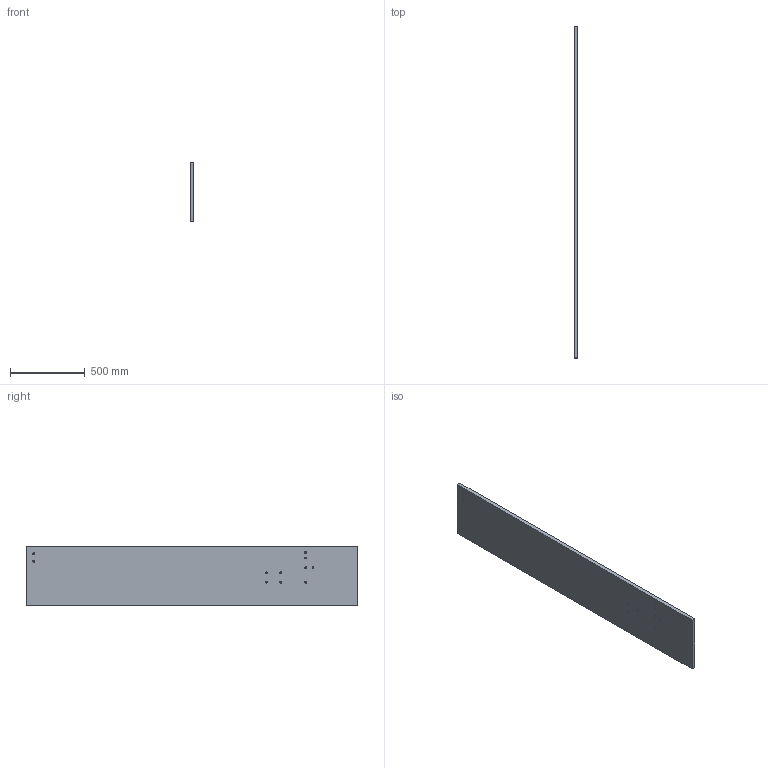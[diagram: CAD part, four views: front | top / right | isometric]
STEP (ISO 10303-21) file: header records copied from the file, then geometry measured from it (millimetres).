
FILE_DESCRIPTION (( 'STEP AP214' ), '1' );
FILE_NAME ('PFIDX0008.STEP', '2025-01-23T10:05:31', ( '' ), ( '' ), 'SwSTEP 2.0', 'SolidWorks 2022', '' );
FILE_SCHEMA (( 'AUTOMOTIVE_DESIGN' ));
Length unit declared in the file: millimetre
Products named in the file (1): PFIDX0008
Bounding box: 25 x 2225 x 400 mm (x, y, z)
Volume: 22240618.2 mm3; surface area: 1915222.4 mm2
Topology: 1 solids, 1 shells, 72 faces, 166 edges, 85 vertices
Faces by surface type: cone 44, cylinder 22, plane 6
Entity records: 1884 total; most frequent: DIRECTION 356, CARTESIAN_POINT 302, ORIENTED_EDGE 288, EDGE_CURVE 144, AXIS2_PLACEMENT_3D 139, VERTEX_POINT 85, EDGE_LOOP 83, LINE 78
